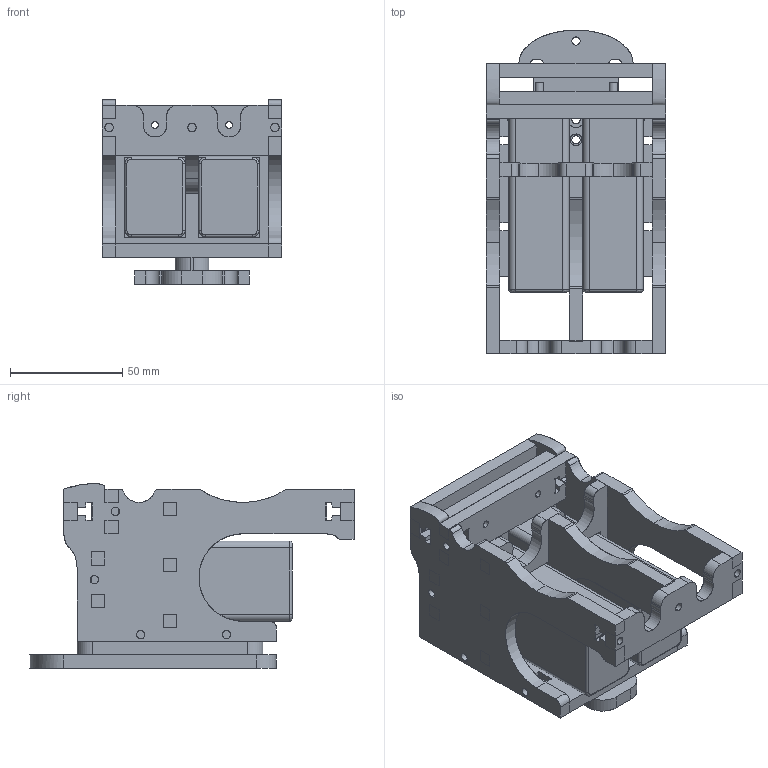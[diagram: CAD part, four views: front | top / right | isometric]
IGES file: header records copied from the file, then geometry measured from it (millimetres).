
Start section: SolidWorks IGES file using analytic representation for surfaces
Global section: file name: C:\Documents and Settings\Jimmy Smith\My Documents\Fab@Home\Model_2\Model_2 CAD\Parasoild\Displacement tool.IGS; native system: SolidWorks 2009; preprocessor: SolidWorks 2009; author: Jimmy Smith; date: 130223.195804; units: millimetre
Bounding box: 80 x 144.64 x 82.37 mm (x, y, z)
Surface area: 116527.3 mm2 (no closed solid volume)
Topology: 0 solids, 0 shells, 739 faces, 9208 edges, 9208 vertices
Faces by surface type: bspline 493, revolution 246
